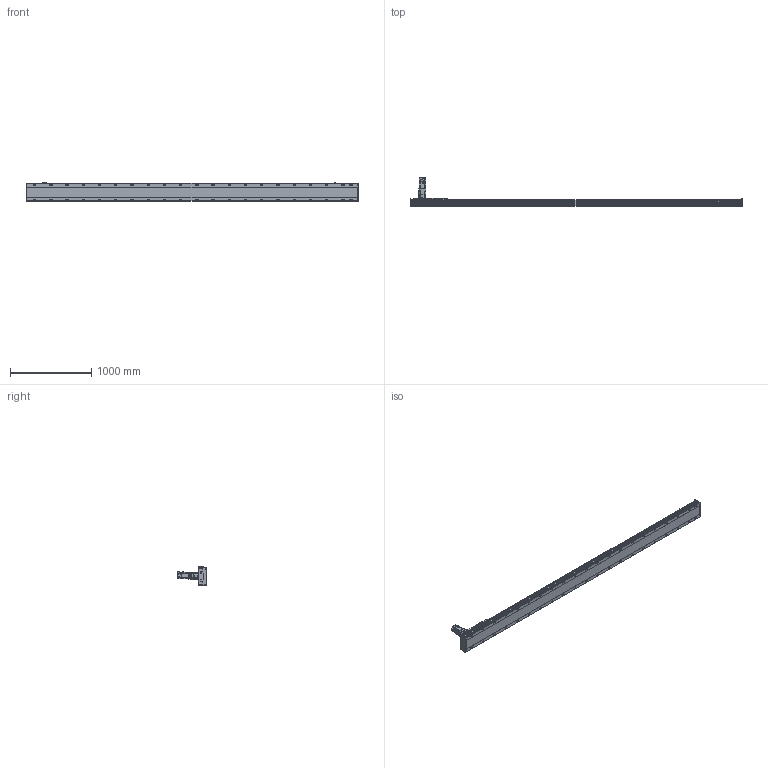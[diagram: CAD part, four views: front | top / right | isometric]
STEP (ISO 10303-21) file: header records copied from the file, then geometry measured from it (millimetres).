
FILE_DESCRIPTION(/* description */ ('STEP AP214'),/* implementation_level */ '2;1');
FILE_NAME(/* name */ 'SHS22A-L13-S3600-BC-T75-C1-N(0)',/* time_stamp */ '2022-06-15T02:28:20+02:00',/* author */ ('License CC BY-ND 4.0'),/* organization */ ('CADENAS'),/* preprocessor_version */ 'ST-DEVELOPER v18.102',/* originating_system */ 'PARTsolutions',/* authorisation */ ' ');
FILE_SCHEMA (('AUTOMOTIVE_DESIGN { 1 0 10303 214 3 1 1 }','AUTOMOTIVE_DESIGN {1 0 10303 214 3 1 1}'));
Length unit declared in the file: millimetre
Products named in the file (7): SHS22A-L13-S3600-BC-T75-C1-N(0); PSC140-sensor; SHS22A-S3600_body2; T75-p1; SHS22A-S3600_body3; SHS22A-S3600_slider; SHS22A-L13-S3600-BC-T75-C1(0)_body
Assembly tree (13 placements, depth 2):
  SHS22A-L13-S3600-BC-T75-C1-N(0)
    PSC140-sensor  x3
    SHS22A-S3600_body2  x6
    T75-p1
    SHS22A-S3600_body3
    SHS22A-S3600_slider
    SHS22A-L13-S3600-BC-T75-C1(0)_body
Bounding box: 4094 x 350.8 x 238.4 mm (x, y, z)
Volume: 44056793.9 mm3; surface area: 4516285.7 mm2
Topology: 13 solids, 13 shells, 1953 faces, 5003 edges, 3274 vertices
Faces by surface type: plane 1364, cylinder 473, cone 107, torus 9
Full cylindrical faces by diameter (mm): 2.8 x3, 4.2 x2, 4.6 x3, 4.917 x4, 5 x4, 5.6 x24, 6 x31, 6.6 x24, 6.647 x8, 6.8 x9, 7.75 x6, 8 x3, 8.376 x42, 8.5 x42, 10 x4, 11 x4, 12 x24, 14 x42, 22 x1, 24.1 x1, 28 x1, 28.2 x1, 28.8 x1, 48.542 x1, 68 x1, 70 x1, 78 x1, 80 x2
Entity records: 33154 total; most frequent: CARTESIAN_POINT 5999, DIRECTION 5621, ORIENTED_EDGE 5016, EDGE_CURVE 2508, AXIS2_PLACEMENT_3D 2018, VERTEX_POINT 1822, FACE_BOUND 1786, EDGE_LOOP 1785
